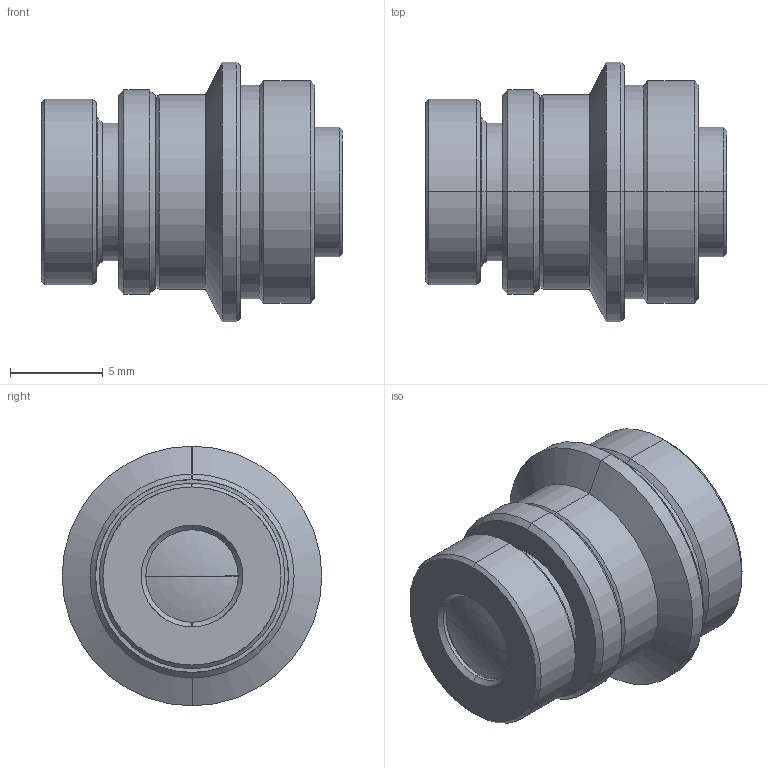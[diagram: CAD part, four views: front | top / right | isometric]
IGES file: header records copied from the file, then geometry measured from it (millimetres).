
Start section: SolidWorks IGES file using analytic representation for surfaces
Global section: file name: C:\Users\tsuji_vst\Documents\【作業フォルダ】\【3D】\00 VST\VS-MC\VS-MC1375-40N\VS-MC1375-40N.IGS; native system: SolidWorks 2018; preprocessor: SolidWorks 2018; author: tsuji_vst; date: 200728.155543; units: millimetre
Bounding box: 16.28 x 14 x 14 mm (x, y, z)
Surface area: 1009.5 mm2 (no closed solid volume)
Topology: 0 solids, 0 shells, 70 faces, 884 edges, 883 vertices
Faces by surface type: revolution 60, bspline 10
